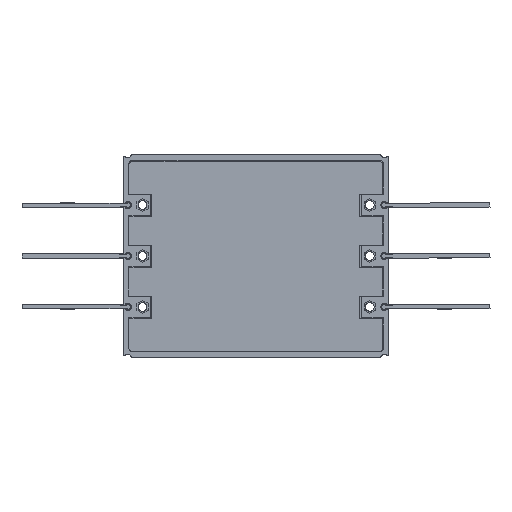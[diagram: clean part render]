
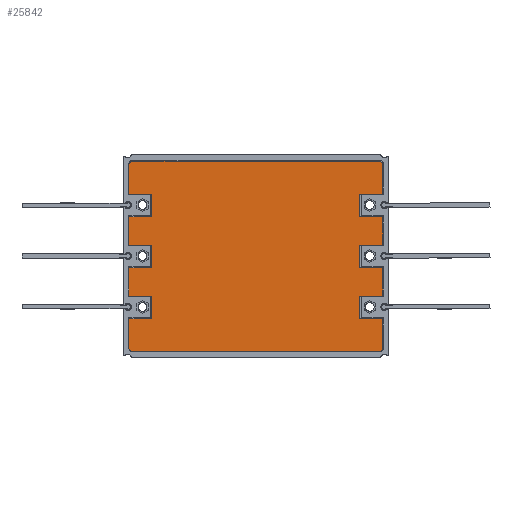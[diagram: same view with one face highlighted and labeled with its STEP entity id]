
A CAD part, left-side view. The second image highlights one B-rep face of the part: STEP entity #25842.
In plain terms, the highlighted planar face has unit normal (-1, 0, 0) as drawn and (0, 0, 1) by its records, which use the part's own axes.
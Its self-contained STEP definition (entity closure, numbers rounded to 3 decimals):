
#24907=DIRECTION('',(1.,0.,0.));
#24908=VECTOR('',#24907,14.3);
#24909=CARTESIAN_POINT('',(30.5,-62.3,0.8));
#24910=LINE('',#24909,#24908);
#24915=DIRECTION('',(0.,-1.,0.));
#24916=VECTOR('',#24915,11.2);
#24917=CARTESIAN_POINT('',(30.5,-51.1,0.8));
#24918=LINE('',#24917,#24916);
#24923=DIRECTION('',(1.,0.,0.));
#24924=VECTOR('',#24923,11.);
#24925=CARTESIAN_POINT('',(19.5,-51.1,0.8));
#24926=LINE('',#24925,#24924);
#24931=DIRECTION('',(0.,1.,0.));
#24932=VECTOR('',#24931,11.2);
#24933=CARTESIAN_POINT('',(19.5,-62.3,0.8));
#24934=LINE('',#24933,#24932);
#24939=DIRECTION('',(1.,0.,0.));
#24940=VECTOR('',#24939,14.);
#24941=CARTESIAN_POINT('',(5.5,-62.3,0.8));
#24942=LINE('',#24941,#24940);
#24947=DIRECTION('',(0.,-1.,0.));
#24948=VECTOR('',#24947,11.2);
#24949=CARTESIAN_POINT('',(5.5,-51.1,0.8));
#24950=LINE('',#24949,#24948);
#24955=DIRECTION('',(1.,0.,0.));
#24956=VECTOR('',#24955,11.);
#24957=CARTESIAN_POINT('',(-5.5,-51.1,0.8));
#24958=LINE('',#24957,#24956);
#24963=DIRECTION('',(0.,1.,0.));
#24964=VECTOR('',#24963,11.2);
#24965=CARTESIAN_POINT('',(-5.5,-62.3,0.8));
#24966=LINE('',#24965,#24964);
#24971=DIRECTION('',(1.,0.,0.));
#24972=VECTOR('',#24971,14.);
#24973=CARTESIAN_POINT('',(-19.5,-62.3,0.8));
#24974=LINE('',#24973,#24972);
#24979=DIRECTION('',(0.,-1.,0.));
#24980=VECTOR('',#24979,11.2);
#24981=CARTESIAN_POINT('',(-19.5,-51.1,0.8));
#24982=LINE('',#24981,#24980);
#24987=DIRECTION('',(1.,0.,0.));
#24988=VECTOR('',#24987,11.);
#24989=CARTESIAN_POINT('',(-30.5,-51.1,0.8));
#24990=LINE('',#24989,#24988);
#24995=DIRECTION('',(0.,1.,0.));
#24996=VECTOR('',#24995,11.2);
#24997=CARTESIAN_POINT('',(-30.5,-62.3,0.8));
#24998=LINE('',#24997,#24996);
#24999=DIRECTION('',(1.,0.,0.));
#25000=VECTOR('',#24999,14.3);
#25001=CARTESIAN_POINT('',(-44.8,-62.3,0.8));
#25002=LINE('',#25001,#25000);
#25011=DIRECTION('',(0.,-1.,0.));
#25012=VECTOR('',#25011,120.6);
#25013=CARTESIAN_POINT('',(-46.8,60.3,0.8));
#25014=LINE('',#25013,#25012);
#25027=DIRECTION('',(-1.,0.,0.));
#25028=VECTOR('',#25027,14.3);
#25029=CARTESIAN_POINT('',(-30.5,62.3,0.8));
#25030=LINE('',#25029,#25028);
#25035=DIRECTION('',(0.,1.,0.));
#25036=VECTOR('',#25035,11.2);
#25037=CARTESIAN_POINT('',(-30.5,51.1,0.8));
#25038=LINE('',#25037,#25036);
#25043=DIRECTION('',(-1.,0.,0.));
#25044=VECTOR('',#25043,11.);
#25045=CARTESIAN_POINT('',(-19.5,51.1,0.8));
#25046=LINE('',#25045,#25044);
#25051=DIRECTION('',(0.,-1.,0.));
#25052=VECTOR('',#25051,11.2);
#25053=CARTESIAN_POINT('',(-19.5,62.3,0.8));
#25054=LINE('',#25053,#25052);
#25059=DIRECTION('',(-1.,0.,0.));
#25060=VECTOR('',#25059,14.);
#25061=CARTESIAN_POINT('',(-5.5,62.3,0.8));
#25062=LINE('',#25061,#25060);
#25067=DIRECTION('',(0.,1.,0.));
#25068=VECTOR('',#25067,11.2);
#25069=CARTESIAN_POINT('',(-5.5,51.1,0.8));
#25070=LINE('',#25069,#25068);
#25075=DIRECTION('',(-1.,0.,0.));
#25076=VECTOR('',#25075,11.);
#25077=CARTESIAN_POINT('',(5.5,51.1,0.8));
#25078=LINE('',#25077,#25076);
#25083=DIRECTION('',(0.,-1.,0.));
#25084=VECTOR('',#25083,11.2);
#25085=CARTESIAN_POINT('',(5.5,62.3,0.8));
#25086=LINE('',#25085,#25084);
#25091=DIRECTION('',(-1.,0.,0.));
#25092=VECTOR('',#25091,14.);
#25093=CARTESIAN_POINT('',(19.5,62.3,0.8));
#25094=LINE('',#25093,#25092);
#25099=DIRECTION('',(0.,1.,0.));
#25100=VECTOR('',#25099,11.2);
#25101=CARTESIAN_POINT('',(19.5,51.1,0.8));
#25102=LINE('',#25101,#25100);
#25107=DIRECTION('',(-1.,0.,0.));
#25108=VECTOR('',#25107,11.);
#25109=CARTESIAN_POINT('',(30.5,51.1,0.8));
#25110=LINE('',#25109,#25108);
#25115=DIRECTION('',(0.,-1.,0.));
#25116=VECTOR('',#25115,11.2);
#25117=CARTESIAN_POINT('',(30.5,62.3,0.8));
#25118=LINE('',#25117,#25116);
#25119=DIRECTION('',(-1.,0.,0.));
#25120=VECTOR('',#25119,14.3);
#25121=CARTESIAN_POINT('',(44.8,62.3,0.8));
#25122=LINE('',#25121,#25120);
#25131=DIRECTION('',(0.,1.,0.));
#25132=VECTOR('',#25131,120.6);
#25133=CARTESIAN_POINT('',(46.8,-60.3,0.8));
#25134=LINE('',#25133,#25132);
#25135=CARTESIAN_POINT('',(44.8,-60.3,0.8));
#25136=DIRECTION('',(0.,0.,-1.));
#25137=DIRECTION('',(1.,0.,0.));
#25138=AXIS2_PLACEMENT_3D('',#25135,#25136,#25137);
#25140=CARTESIAN_POINT('',(-44.8,-60.3,0.8));
#25141=DIRECTION('',(0.,0.,-1.));
#25142=DIRECTION('',(0.,-1.,0.));
#25143=AXIS2_PLACEMENT_3D('',#25140,#25141,#25142);
#25145=CARTESIAN_POINT('',(-44.8,60.3,0.8));
#25146=DIRECTION('',(0.,0.,-1.));
#25147=DIRECTION('',(-1.,0.,0.));
#25148=AXIS2_PLACEMENT_3D('',#25145,#25146,#25147);
#25150=CARTESIAN_POINT('',(44.8,60.3,0.8));
#25151=DIRECTION('',(0.,0.,-1.));
#25152=DIRECTION('',(0.,1.,0.));
#25153=AXIS2_PLACEMENT_3D('',#25150,#25151,#25152);
#25219=CARTESIAN_POINT('',(44.8,-62.3,0.8));
#25220=VERTEX_POINT('',#25219);
#25221=CARTESIAN_POINT('',(46.8,-60.3,0.8));
#25222=VERTEX_POINT('',#25221);
#25223=CARTESIAN_POINT('',(30.5,-62.3,0.8));
#25224=VERTEX_POINT('',#25223);
#25225=CARTESIAN_POINT('',(30.5,-51.1,0.8));
#25226=VERTEX_POINT('',#25225);
#25227=CARTESIAN_POINT('',(19.5,-51.1,0.8));
#25228=VERTEX_POINT('',#25227);
#25229=CARTESIAN_POINT('',(19.5,-62.3,0.8));
#25230=VERTEX_POINT('',#25229);
#25231=CARTESIAN_POINT('',(5.5,-62.3,0.8));
#25232=VERTEX_POINT('',#25231);
#25233=CARTESIAN_POINT('',(5.5,-51.1,0.8));
#25234=VERTEX_POINT('',#25233);
#25235=CARTESIAN_POINT('',(-5.5,-51.1,0.8));
#25236=VERTEX_POINT('',#25235);
#25237=CARTESIAN_POINT('',(-5.5,-62.3,0.8));
#25238=VERTEX_POINT('',#25237);
#25239=CARTESIAN_POINT('',(-19.5,-62.3,0.8));
#25240=VERTEX_POINT('',#25239);
#25241=CARTESIAN_POINT('',(-19.5,-51.1,0.8));
#25242=VERTEX_POINT('',#25241);
#25243=CARTESIAN_POINT('',(-30.5,-51.1,0.8));
#25244=VERTEX_POINT('',#25243);
#25245=CARTESIAN_POINT('',(-30.5,-62.3,0.8));
#25246=VERTEX_POINT('',#25245);
#25247=CARTESIAN_POINT('',(-44.8,-62.3,0.8));
#25248=VERTEX_POINT('',#25247);
#25249=CARTESIAN_POINT('',(-46.8,-60.3,0.8));
#25250=VERTEX_POINT('',#25249);
#25251=CARTESIAN_POINT('',(-46.8,60.3,0.8));
#25252=VERTEX_POINT('',#25251);
#25253=CARTESIAN_POINT('',(-44.8,62.3,0.8));
#25254=VERTEX_POINT('',#25253);
#25255=CARTESIAN_POINT('',(-30.5,62.3,0.8));
#25256=VERTEX_POINT('',#25255);
#25257=CARTESIAN_POINT('',(-30.5,51.1,0.8));
#25258=VERTEX_POINT('',#25257);
#25259=CARTESIAN_POINT('',(-19.5,51.1,0.8));
#25260=VERTEX_POINT('',#25259);
#25261=CARTESIAN_POINT('',(-19.5,62.3,0.8));
#25262=VERTEX_POINT('',#25261);
#25263=CARTESIAN_POINT('',(-5.5,62.3,0.8));
#25264=VERTEX_POINT('',#25263);
#25265=CARTESIAN_POINT('',(-5.5,51.1,0.8));
#25266=VERTEX_POINT('',#25265);
#25267=CARTESIAN_POINT('',(5.5,51.1,0.8));
#25268=VERTEX_POINT('',#25267);
#25269=CARTESIAN_POINT('',(5.5,62.3,0.8));
#25270=VERTEX_POINT('',#25269);
#25271=CARTESIAN_POINT('',(19.5,62.3,0.8));
#25272=VERTEX_POINT('',#25271);
#25273=CARTESIAN_POINT('',(19.5,51.1,0.8));
#25274=VERTEX_POINT('',#25273);
#25275=CARTESIAN_POINT('',(30.5,51.1,0.8));
#25276=VERTEX_POINT('',#25275);
#25277=CARTESIAN_POINT('',(30.5,62.3,0.8));
#25278=VERTEX_POINT('',#25277);
#25279=CARTESIAN_POINT('',(44.8,62.3,0.8));
#25280=VERTEX_POINT('',#25279);
#25281=CARTESIAN_POINT('',(46.8,60.3,0.8));
#25282=VERTEX_POINT('',#25281);
#25803=CARTESIAN_POINT('',(0.,0.,0.8));
#25804=DIRECTION('',(0.,0.,1.));
#25805=DIRECTION('',(1.,0.,0.));
#25806=AXIS2_PLACEMENT_3D('',#25803,#25804,#25805);
#25807=PLANE('',#25806);
#25808=ORIENTED_EDGE('',*,*,#25363,.T.);
#25809=ORIENTED_EDGE('',*,*,#25378,.F.);
#25810=ORIENTED_EDGE('',*,*,#25392,.F.);
#25811=ORIENTED_EDGE('',*,*,#25406,.F.);
#25812=ORIENTED_EDGE('',*,*,#25420,.F.);
#25813=ORIENTED_EDGE('',*,*,#25434,.F.);
#25814=ORIENTED_EDGE('',*,*,#25448,.F.);
#25815=ORIENTED_EDGE('',*,*,#25462,.F.);
#25816=ORIENTED_EDGE('',*,*,#25476,.F.);
#25817=ORIENTED_EDGE('',*,*,#25490,.F.);
#25818=ORIENTED_EDGE('',*,*,#25504,.F.);
#25819=ORIENTED_EDGE('',*,*,#25518,.F.);
#25820=ORIENTED_EDGE('',*,*,#25532,.F.);
#25821=ORIENTED_EDGE('',*,*,#25546,.F.);
#25822=ORIENTED_EDGE('',*,*,#25560,.T.);
#25823=ORIENTED_EDGE('',*,*,#25574,.F.);
#25824=ORIENTED_EDGE('',*,*,#25588,.T.);
#25825=ORIENTED_EDGE('',*,*,#25602,.F.);
#25826=ORIENTED_EDGE('',*,*,#25616,.F.);
#25827=ORIENTED_EDGE('',*,*,#25630,.F.);
#25828=ORIENTED_EDGE('',*,*,#25644,.F.);
#25829=ORIENTED_EDGE('',*,*,#25658,.F.);
#25830=ORIENTED_EDGE('',*,*,#25672,.F.);
#25831=ORIENTED_EDGE('',*,*,#25686,.F.);
#25832=ORIENTED_EDGE('',*,*,#25700,.F.);
#25833=ORIENTED_EDGE('',*,*,#25714,.F.);
#25834=ORIENTED_EDGE('',*,*,#25728,.F.);
#25835=ORIENTED_EDGE('',*,*,#25742,.F.);
#25836=ORIENTED_EDGE('',*,*,#25756,.F.);
#25837=ORIENTED_EDGE('',*,*,#25770,.F.);
#25838=ORIENTED_EDGE('',*,*,#25784,.T.);
#25839=ORIENTED_EDGE('',*,*,#25797,.F.);
#25840=EDGE_LOOP('',(#25808,#25809,#25810,#25811,#25812,#25813,#25814,#25815,
#25816,#25817,#25818,#25819,#25820,#25821,#25822,#25823,#25824,#25825,#25826,
#25827,#25828,#25829,#25830,#25831,#25832,#25833,#25834,#25835,#25836,#25837,
#25838,#25839));
#25841=FACE_OUTER_BOUND('',#25840,.F.);
#25842=ADVANCED_FACE('',(#25841),#25807,.T.);
#25139=CIRCLE('',#25138,2.);
#25144=CIRCLE('',#25143,2.);
#25149=CIRCLE('',#25148,2.);
#25154=CIRCLE('',#25153,2.);
#25363=EDGE_CURVE('',#25222,#25220,#25139,.T.);
#25378=EDGE_CURVE('',#25224,#25220,#24910,.T.);
#25392=EDGE_CURVE('',#25226,#25224,#24918,.T.);
#25406=EDGE_CURVE('',#25228,#25226,#24926,.T.);
#25420=EDGE_CURVE('',#25230,#25228,#24934,.T.);
#25434=EDGE_CURVE('',#25232,#25230,#24942,.T.);
#25448=EDGE_CURVE('',#25234,#25232,#24950,.T.);
#25462=EDGE_CURVE('',#25236,#25234,#24958,.T.);
#25476=EDGE_CURVE('',#25238,#25236,#24966,.T.);
#25490=EDGE_CURVE('',#25240,#25238,#24974,.T.);
#25504=EDGE_CURVE('',#25242,#25240,#24982,.T.);
#25518=EDGE_CURVE('',#25244,#25242,#24990,.T.);
#25532=EDGE_CURVE('',#25246,#25244,#24998,.T.);
#25546=EDGE_CURVE('',#25248,#25246,#25002,.T.);
#25560=EDGE_CURVE('',#25248,#25250,#25144,.T.);
#25574=EDGE_CURVE('',#25252,#25250,#25014,.T.);
#25588=EDGE_CURVE('',#25252,#25254,#25149,.T.);
#25602=EDGE_CURVE('',#25256,#25254,#25030,.T.);
#25616=EDGE_CURVE('',#25258,#25256,#25038,.T.);
#25630=EDGE_CURVE('',#25260,#25258,#25046,.T.);
#25644=EDGE_CURVE('',#25262,#25260,#25054,.T.);
#25658=EDGE_CURVE('',#25264,#25262,#25062,.T.);
#25672=EDGE_CURVE('',#25266,#25264,#25070,.T.);
#25686=EDGE_CURVE('',#25268,#25266,#25078,.T.);
#25700=EDGE_CURVE('',#25270,#25268,#25086,.T.);
#25714=EDGE_CURVE('',#25272,#25270,#25094,.T.);
#25728=EDGE_CURVE('',#25274,#25272,#25102,.T.);
#25742=EDGE_CURVE('',#25276,#25274,#25110,.T.);
#25756=EDGE_CURVE('',#25278,#25276,#25118,.T.);
#25770=EDGE_CURVE('',#25280,#25278,#25122,.T.);
#25784=EDGE_CURVE('',#25280,#25282,#25154,.T.);
#25797=EDGE_CURVE('',#25222,#25282,#25134,.T.);
